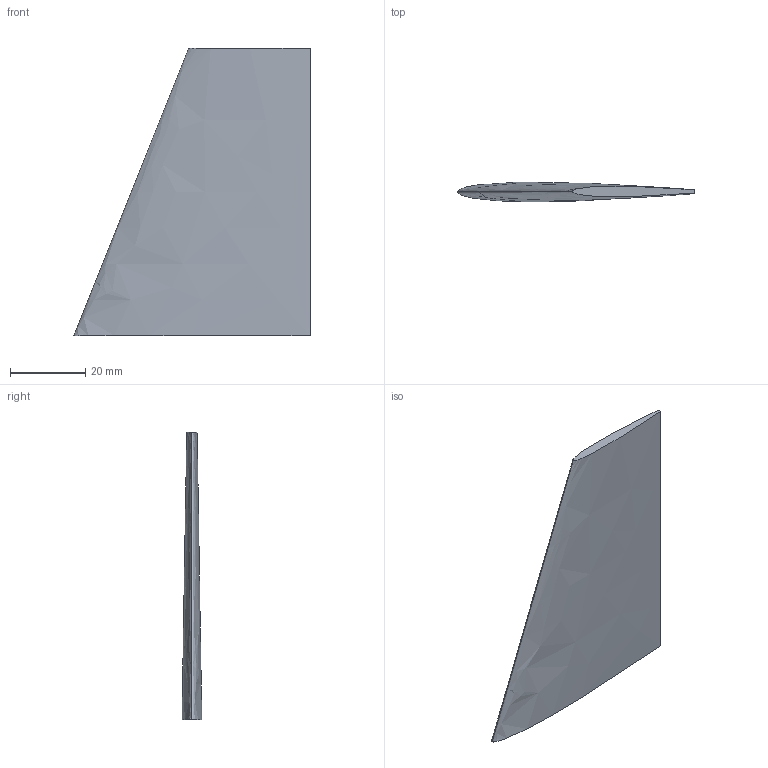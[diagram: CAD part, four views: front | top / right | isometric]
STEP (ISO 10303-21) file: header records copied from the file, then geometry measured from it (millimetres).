
FILE_DESCRIPTION(('SkyG Speed 90B - revision C6B-2 - 2026-10-08','FN-fin'),'2;1');
FILE_NAME('FN-fin_C6B-2','2026-10-08T01:12:38',('Author'),( 'Open CASCADE'),'Open CASCADE STEP processor 7.9','Open CASCADE 7.9' ,'Unknown');
FILE_SCHEMA(('AUTOMOTIVE_DESIGN { 1 0 10303 214 1 1 1 1 }'));
Length unit declared in the file: millimetre
Products named in the file (1): FN-fin C6B-2
Bounding box: 62.6 x 5.21 x 76.1 mm (x, y, z)
Volume: 10821.9 mm3; surface area: 8120.2 mm2
Topology: 1 solids, 1 shells, 12 faces, 31 edges, 22 vertices
Faces by surface type: plane 5, cylinder 5, bspline 2
Full cylindrical faces by diameter (mm): 1.9 x1
Entity records: 1772 total; most frequent: CARTESIAN_POINT 1209, DIRECTION 81, ORIENTED_EDGE 62, PCURVE 62, DEFINITIONAL_REPRESENTATION 62, B_SPLINE_CURVE_WITH_KNOTS 45, EDGE_CURVE 31, SURFACE_CURVE 30
